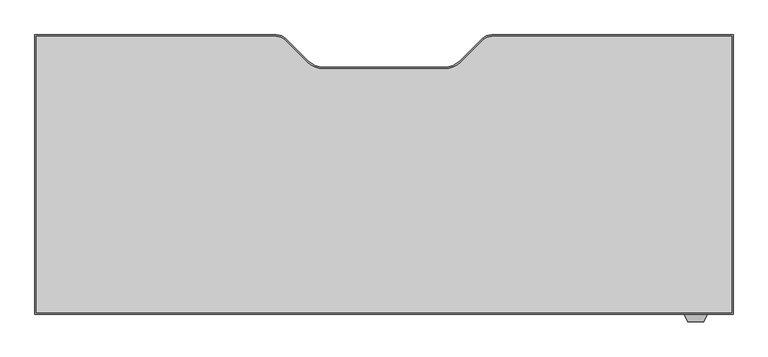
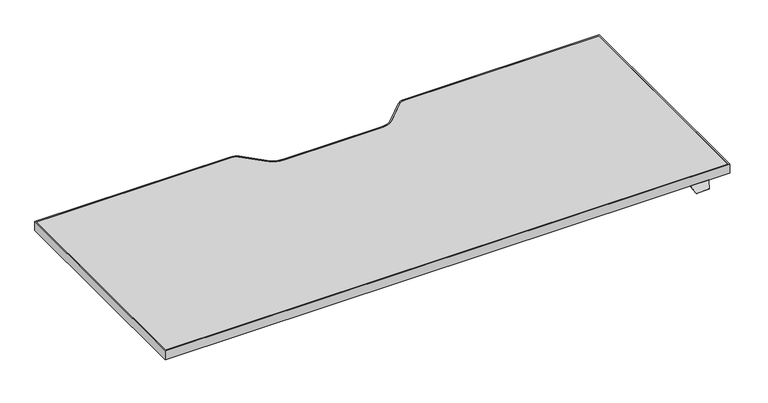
"""IFC4 building model written with IfcOpenShell, lengths in millimetres: furniture geometry, Steelcase Turnstone - Bivi - Height Adjustable Desk - T Base : 24D x 60W."""

from ifc_helpers import new_model, si_unit, point, frame, frame_2d, origin, place, context, project, spatial, polyline, circle_curve, trimmed, segment, composite_curve, outline, extrude, faceted_brep, source, transform, mapped, element, save


def furniture_86043258(model_context):
    return source(origin(), model_context, "Body", "SolidModel", [
        faceted_brep([(316.0177913, -402.3301693, 760.9984131), (316.0177913, -399.8074599, 760.9984131), (316.0177913, -399.8074599, 762.4), (316.0177913, -402.3490853, 762.4), (316.0177913, -403.6594921, 761.3004382), (316.0177913, -403.6594921, 759.8829789), (266.4448135, -402.3490853, 762.4), (266.4448135, -399.8074599, 762.4), (266.4448135, -399.8074599, 760.9984131), (266.4448135, -402.3301693, 760.9984131), (266.4448135, -403.6594921, 759.8829789), (266.4448135, -403.6594921, 761.3004382), (309.0358363, -418.6323429, 748.7367246), (273.4267685, -418.6323429, 748.7367246), (273.0673686, -417.8616074, 747.9659891), (309.3952362, -417.8616074, 747.9659891)], [[[0, 1, 2, 3, 4, 5]], [[6, 7, 8, 9, 10, 11]], [[12, 13, 14, 15]], [[9, 0, 5, 15, 14, 10]], [[1, 0, 9, 8]], [[2, 1, 8, 7]], [[3, 2, 7, 6]], [[3, 6, 11, 13, 12, 4]], [[5, 4, 12, 15]], [[11, 10, 14, 13]]]),
        extrude(outline(composite_curve([segment(polyline([(-1151.2285908, 207.2509147), (-623.9070191, 207.2509147)]), True, "CONTINUOUS"), segment(trimmed(circle_curve(frame_2d((-623.9070191, 178.5489147)), 28.702), [point((-623.9070191, 207.2509147))], [point((-603.6116402, 198.8442935))], False, "CARTESIAN"), True, "CONTINUOUS"), segment(polyline([(-603.6116402, 198.8442935), (-556.0972358, 151.3298891)]), True, "CONTINUOUS"), segment(trimmed(circle_curve(frame_2d((-520.1762113, 187.2509136)), 50.8), [point((-556.0972358, 151.3298891))], [point((-520.1762113, 136.4509136))], True, "CARTESIAN"), True, "CONTINUOUS"), segment(polyline([(-520.1762113, 136.4509136), (-258.2809703, 136.4509136)]), True, "CONTINUOUS"), segment(trimmed(circle_curve(frame_2d((-258.2809703, 187.2509136)), 50.8), [point((-258.2809703, 136.4509136))], [point((-222.3599458, 151.3298891))], True, "CARTESIAN"), True, "CONTINUOUS"), segment(polyline([(-222.3599458, 151.3298891), (-174.8455414, 198.8442935)]), True, "CONTINUOUS"), segment(trimmed(circle_curve(frame_2d((-154.5501625, 178.5489147)), 28.702), [point((-174.8455414, 198.8442935))], [point((-154.5501625, 207.2509147))], False, "CARTESIAN"), True, "CONTINUOUS"), segment(polyline([(-154.5501625, 207.2509147), (372.7714092, 207.2509147), (372.7714092, -402.3490853), (-1151.2285908, -402.3490853), (-1151.2285908, 207.2509147)]), True, "CONTINUOUS")], self_intersect=False), holes=[composite_curve([segment(polyline([(-1147.8487543, 203.9489147), (-1147.8487543, -399.0470853), (369.4694092, -399.0470853), (369.4694092, 203.9489147), (-154.5501625, 203.9489147)]), True, "CONTINUOUS"), segment(trimmed(circle_curve(frame_2d((-154.5501625, 178.5489147)), 25.4), [point((-154.5501625, 203.9489147))], [point((-172.5106748, 196.5094269))], True, "CARTESIAN"), True, "CONTINUOUS"), segment(polyline([(-172.5106748, 196.5094269), (-220.527602, 148.4924998)]), True, "CONTINUOUS"), segment(trimmed(circle_curve(frame_2d((-256.4486265, 184.4135242)), 50.8), [point((-220.527602, 148.4924998))], [point((-256.4486265, 133.6135242))], False, "CARTESIAN"), True, "CONTINUOUS"), segment(polyline([(-256.4486265, 133.6135242), (-389.2285908, 133.6135242), (-522.0085552, 133.6135242)]), True, "CONTINUOUS"), segment(trimmed(circle_curve(frame_2d((-522.0085552, 184.4135242)), 50.8), [point((-522.0085552, 133.6135242))], [point((-557.9295796, 148.4924998))], False, "CARTESIAN"), True, "CONTINUOUS"), segment(polyline([(-557.9295796, 148.4924998), (-605.9465068, 196.5094269)]), True, "CONTINUOUS"), segment(trimmed(circle_curve(frame_2d((-623.9070191, 178.5489147)), 25.4), [point((-605.9465068, 196.5094269))], [point((-623.9070191, 203.9489147))], True, "CARTESIAN"), True, "CONTINUOUS"), segment(polyline([(-623.9070191, 203.9489147), (-1147.8487543, 203.9489147)]), True, "CONTINUOUS")], self_intersect=False)]), frame((0.0, 0.0, 762.4), z_axis=(0.0, 0.0, 1.0), x_axis=(1.0, 0.0, 0.0)), (0.0, 0.0, 1.0), 25.0),
        extrude(outline(composite_curve([segment(polyline([(-1147.8487543, 203.9489147), (-623.9070191, 203.9489147)]), True, "CONTINUOUS"), segment(trimmed(circle_curve(frame_2d((-623.9070191, 178.5489147)), 25.4), [point((-623.9070191, 203.9489147))], [point((-605.9465068, 196.5094269))], False, "CARTESIAN"), True, "CONTINUOUS"), segment(polyline([(-605.9465068, 196.5094269), (-557.9295796, 148.4924998)]), True, "CONTINUOUS"), segment(trimmed(circle_curve(frame_2d((-522.0085552, 184.4135242)), 50.8), [point((-557.9295796, 148.4924998))], [point((-522.0085552, 133.6135242))], True, "CARTESIAN"), True, "CONTINUOUS"), segment(polyline([(-522.0085552, 133.6135242), (-389.2285908, 133.6135242), (-256.4486265, 133.6135242)]), True, "CONTINUOUS"), segment(trimmed(circle_curve(frame_2d((-256.4486265, 184.4135242)), 50.8), [point((-256.4486265, 133.6135242))], [point((-220.527602, 148.4924998))], True, "CARTESIAN"), True, "CONTINUOUS"), segment(polyline([(-220.527602, 148.4924998), (-172.5106748, 196.5094269)]), True, "CONTINUOUS"), segment(trimmed(circle_curve(frame_2d((-154.5501625, 178.5489147)), 25.4), [point((-172.5106748, 196.5094269))], [point((-154.5501625, 203.9489147))], False, "CARTESIAN"), True, "CONTINUOUS"), segment(polyline([(-154.5501625, 203.9489147), (369.4694092, 203.9489147), (369.4694092, -399.0470853), (-1147.8487543, -399.0470853), (-1147.8487543, 203.9489147)]), True, "CONTINUOUS")], self_intersect=False)), frame((0.0, 0.0, 762.4), z_axis=(0.0, 0.0, 1.0), x_axis=(1.0, 0.0, 0.0)), (0.0, 0.0, 1.0), 25.0),
    ])


if __name__ == "__main__":
    model = new_model("IFC4")
    model_context = context("Model", 3, world=origin())
    ifc_project = project(units=[si_unit("LENGTHUNIT", "METRE", prefix="MILLI")], contexts=[model_context])
    site = spatial("IfcSite", under=ifc_project)
    building = spatial("IfcBuilding", under=site)
    placement = place(None, origin())
    furniture_shape = furniture_86043258(model_context)
    element("IfcFurniture", 1, ObjectType="Steelcase Turnstone - Bivi - Height Adjustable Desk - T Base : 24D x 60W", at=placement, inside=building, context=model_context, shape_type="MappedRepresentation", body=[
        mapped(furniture_shape, transform((0.0, 0.0, 0.0), x_axis=(1.0, 0.0, 0.0), y_axis=(0.0, 1.0, 0.0), z_axis=(0.0, 0.0, 1.0))),
    ])
    save(model, "model.ifc")
